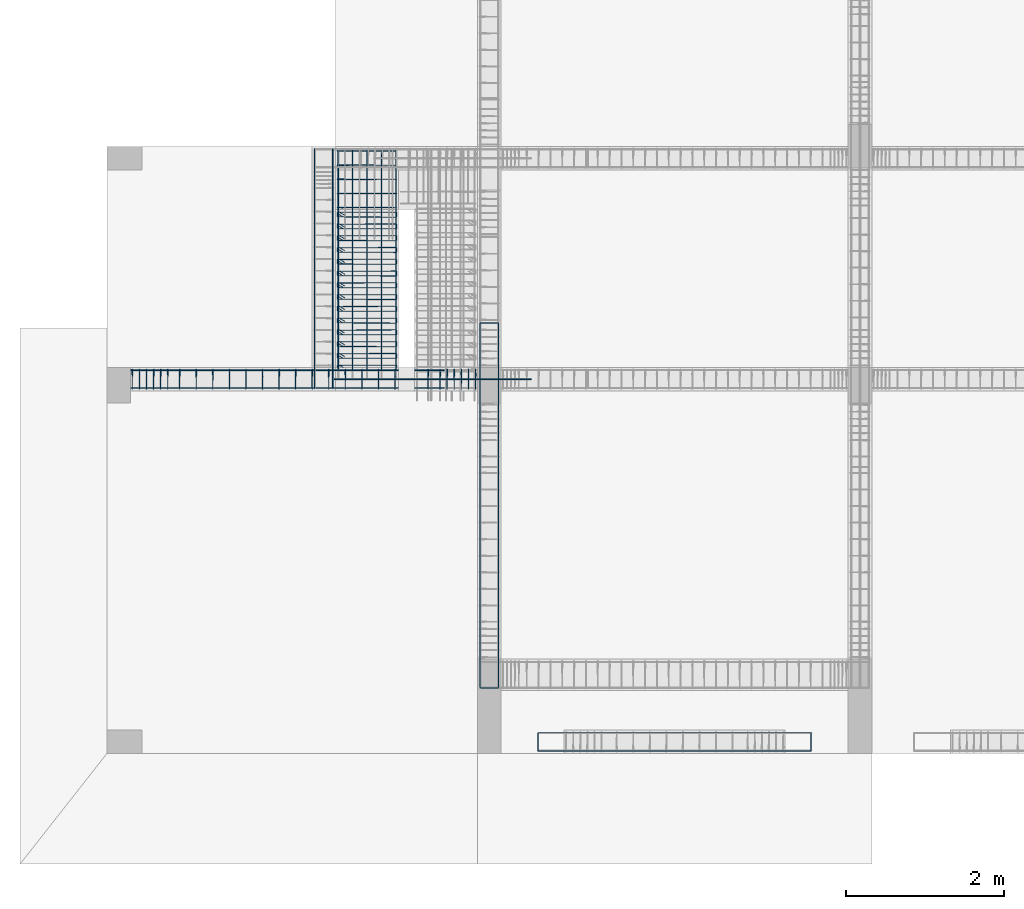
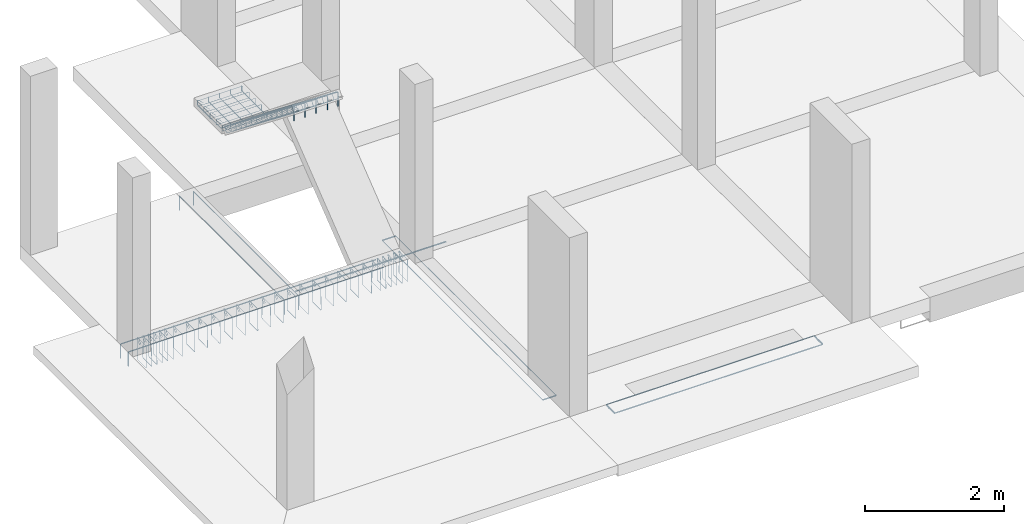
# One storey, part 2 of 5: 8 reinforcing bars.
"""IFC4 building model written with IfcOpenShell, lengths in metres."""

from ifc_helpers import new_model, entity, si_unit, frame, origin_with_axes, place, context, project, spatial, source, transform, mapped, element, save


model = new_model("IFC4")

# Units and contexts
model_context = context("Model", 3, precision=1e-05, world=origin_with_axes())
ifc_project = project(units=[si_unit("LENGTHUNIT", "METRE"), si_unit("AREAUNIT", "SQUARE_METRE"), si_unit("VOLUMEUNIT", "CUBIC_METRE"), si_unit("MASSUNIT", "GRAM", prefix="KILO"), si_unit("TIMEUNIT", "SECOND"), si_unit("PLANEANGLEUNIT", "RADIAN"), si_unit("SOLIDANGLEUNIT", "STERADIAN"), si_unit("THERMODYNAMICTEMPERATUREUNIT", "DEGREE_CELSIUS")], contexts=[model_context])

# Site, building, storey
placement_1 = place(None, origin_with_axes())
site = spatial("IfcSite", under=ifc_project, at=placement_1, Name="Italia", CompositionType="ELEMENT")
building = spatial("IfcBuilding", under=site, at=placement_1, Name="Bifamiliare", CompositionType="ELEMENT")
storey_placement = place(None, frame((0.0, 0.0, 2.799999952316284), z_axis=(0.0, 0.0, 1.0), x_axis=(1.0, 0.0, 0.0)))
storey = spatial("IfcBuildingStorey", under=building, at=storey_placement, Name="Storey 1", CompositionType="ELEMENT", Elevation=2.799999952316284)

# Reinforcing bars
shared_shape_1 = source(origin_with_axes(), model_context, "Body", "AdvancedSweptSolid", [
    entity("IfcSweptDiskSolid", entity("IfcIndexedPolyCurve", entity("IfcCartesianPointList3D", [[6.56833, 1.436, 2.586], [6.56833, 1.656, 2.586], [6.56909, 1.65983, 2.586], [6.57126, 1.66307, 2.586], [6.57451, 1.66524, 2.586], [6.57833, 1.666, 2.586], [10.0217, 1.666, 2.586], [10.0255, 1.66524, 2.586], [10.0287, 1.66307, 2.586], [10.0309, 1.65983, 2.586], [10.0317, 1.656, 2.586], [10.0317, 1.436, 2.586]]), [entity("IfcLineIndex", [1, 2]), entity("IfcLineIndex", [2, 3]), entity("IfcLineIndex", [3, 4]), entity("IfcLineIndex", [4, 5]), entity("IfcLineIndex", [5, 6]), entity("IfcLineIndex", [6, 7]), entity("IfcLineIndex", [7, 8]), entity("IfcLineIndex", [8, 9]), entity("IfcLineIndex", [9, 10]), entity("IfcLineIndex", [10, 11]), entity("IfcLineIndex", [11, 12])], False), 0.006),
])
placement_2 = place(placement_1, origin_with_axes())
reinforcing_bar_1_placement = place(placement_2, origin_with_axes())
element("IfcReinforcingBar", 1, at=reinforcing_bar_1_placement, inside=storey, BarLength=3.91455, CrossSectionArea=0.0001131, NominalDiameter=0.012, context=model_context, shape_type="MappedRepresentation", body=[
    mapped(shared_shape_1, transform((0.0, 3.1, 5.16), x_axis=(1.0, 0.0, 0.0), y_axis=(0.0, -1.0, 0.0), z_axis=(0.0, 0.0, -1.0), scale=1.0)),
    mapped(shared_shape_1, transform((0.0, 0.0, 0.0), x_axis=(1.0, 0.0, 0.0), y_axis=(0.0, 1.0, 0.0), z_axis=(0.0, 0.0, 1.0), scale=1.0)),
])
shared_shape_2 = source(origin_with_axes(), model_context, "Body", "AdvancedSweptSolid", [
    entity("IfcSweptDiskSolid", entity("IfcIndexedPolyCurve", entity("IfcCartesianPointList3D", [[1.42, 6.20529, 2.68429], [1.42059, 6.27307, 2.75207], [1.42064, 6.276, 2.75914], [1.42068, 6.276, 2.766], [1.4207, 6.27524, 2.76983], [1.42073, 6.27307, 2.77307], [1.42075, 6.26983, 2.77524], [1.42078, 6.266, 2.776], [1.4222, 6.034, 2.776], [1.42223, 6.03017, 2.77524], [1.42225, 6.02693, 2.77307], [1.42228, 6.02476, 2.76983], [1.4223, 6.024, 2.766], [1.42459, 6.024, 2.394], [1.42461, 6.02476, 2.39017], [1.42464, 6.02693, 2.38693], [1.42466, 6.03017, 2.38476], [1.42469, 6.034, 2.384], [1.42611, 6.266, 2.384], [1.42614, 6.26983, 2.38476], [1.42616, 6.27307, 2.38693], [1.42619, 6.27524, 2.39017], [1.42621, 6.276, 2.394], [1.4285, 6.276, 2.766], [1.42852, 6.27524, 2.76983], [1.42855, 6.27307, 2.77307], [1.42857, 6.26983, 2.77524], [1.4286, 6.266, 2.776], [1.42864, 6.25914, 2.776], [1.42868, 6.25207, 2.77307], [1.42927, 6.18429, 2.70529]]), [entity("IfcLineIndex", [1, 2]), entity("IfcLineIndex", [2, 3]), entity("IfcLineIndex", [3, 4]), entity("IfcLineIndex", [4, 5]), entity("IfcLineIndex", [5, 6]), entity("IfcLineIndex", [6, 7]), entity("IfcLineIndex", [7, 8]), entity("IfcLineIndex", [8, 9]), entity("IfcLineIndex", [9, 10]), entity("IfcLineIndex", [10, 11]), entity("IfcLineIndex", [11, 12]), entity("IfcLineIndex", [12, 13]), entity("IfcLineIndex", [13, 14]), entity("IfcLineIndex", [14, 15]), entity("IfcLineIndex", [15, 16]), entity("IfcLineIndex", [16, 17]), entity("IfcLineIndex", [17, 18]), entity("IfcLineIndex", [18, 19]), entity("IfcLineIndex", [19, 20]), entity("IfcLineIndex", [20, 21]), entity("IfcLineIndex", [21, 22]), entity("IfcLineIndex", [22, 23]), entity("IfcLineIndex", [23, 24]), entity("IfcLineIndex", [24, 25]), entity("IfcLineIndex", [25, 26]), entity("IfcLineIndex", [26, 27]), entity("IfcLineIndex", [27, 28]), entity("IfcLineIndex", [28, 29]), entity("IfcLineIndex", [29, 30]), entity("IfcLineIndex", [30, 31])], False), 0.004),
])
reinforcing_bar_2_placement = place(placement_2, origin_with_axes())
element("IfcReinforcingBar", 2, at=reinforcing_bar_2_placement, inside=storey, BarLength=1.50681, CrossSectionArea=5.0265e-05, NominalDiameter=0.008, context=model_context, shape_type="MappedRepresentation", body=[
    mapped(shared_shape_2, transform((0.811233, -8.91685e-05, 8.2016e-05), x_axis=(1.0, 6.37638e-05, -6.00507e-05), y_axis=(-6.35566e-05, 1.0, 0.0), z_axis=(6.00507e-05, 0.0, 1.0), scale=1.0)),
    mapped(shared_shape_2, transform((1.23123, -8.91685e-05, 8.2016e-05), x_axis=(1.0, 6.37638e-05, -6.00507e-05), y_axis=(-6.35566e-05, 1.0, 0.0), z_axis=(6.00507e-05, 0.0, 1.0), scale=1.0)),
    mapped(shared_shape_2, transform((1.02123, -8.91685e-05, 8.2016e-05), x_axis=(1.0, 6.37638e-05, -6.00507e-05), y_axis=(-6.35566e-05, 1.0, 0.0), z_axis=(6.00507e-05, 0.0, 1.0), scale=1.0)),
    mapped(shared_shape_2, transform((1.44123, -8.91685e-05, 8.2016e-05), x_axis=(1.0, 6.37638e-05, -6.00507e-05), y_axis=(-6.35566e-05, 1.0, 0.0), z_axis=(6.00507e-05, 0.0, 1.0), scale=1.0)),
    mapped(shared_shape_2, transform((1.86123, -8.91685e-05, 8.2016e-05), x_axis=(1.0, 6.37638e-05, -6.00507e-05), y_axis=(-6.35566e-05, 1.0, 0.0), z_axis=(6.00507e-05, 0.0, 1.0), scale=1.0)),
    mapped(shared_shape_2, transform((1.65123, -8.91685e-05, 8.2016e-05), x_axis=(1.0, 6.37638e-05, -6.00507e-05), y_axis=(-6.35566e-05, 1.0, 0.0), z_axis=(6.00507e-05, 0.0, 1.0), scale=1.0)),
    mapped(shared_shape_2, transform((2.07123, -8.91685e-05, 8.2016e-05), x_axis=(1.0, 6.37638e-05, -6.00507e-05), y_axis=(-6.35566e-05, 1.0, 0.0), z_axis=(6.00507e-05, 0.0, 1.0), scale=1.0)),
    mapped(shared_shape_2, transform((0.0902334, -8.91685e-05, 8.2016e-05), x_axis=(1.0, 6.37638e-05, -6.00507e-05), y_axis=(-6.35566e-05, 1.0, 0.0), z_axis=(6.00507e-05, 0.0, 1.0), scale=1.0)),
    mapped(shared_shape_2, transform((0.0, 0.0, 0.0), x_axis=(1.0, 0.0, 0.0), y_axis=(0.0, 1.0, 0.0), z_axis=(0.0, 0.0, 1.0), scale=1.0)),
    mapped(shared_shape_2, transform((0.18, 0.0, 0.0), x_axis=(1.0, 0.0, 0.0), y_axis=(0.0, 1.0, 0.0), z_axis=(0.0, 0.0, 1.0), scale=1.0)),
    mapped(shared_shape_2, transform((0.360233, -8.91685e-05, 8.2016e-05), x_axis=(1.0, 6.37638e-05, -6.00507e-05), y_axis=(-6.35566e-05, 1.0, 0.0), z_axis=(6.00507e-05, 0.0, 1.0), scale=1.0)),
    mapped(shared_shape_2, transform((0.27, 0.0, 0.0), x_axis=(1.0, 0.0, 0.0), y_axis=(0.0, 1.0, 0.0), z_axis=(0.0, 0.0, 1.0), scale=1.0)),
    mapped(shared_shape_2, transform((0.450234, -8.91685e-05, 8.2016e-05), x_axis=(1.0, 6.37638e-05, -6.00507e-05), y_axis=(-6.35566e-05, 1.0, 0.0), z_axis=(6.00507e-05, 0.0, 1.0), scale=1.0)),
    mapped(shared_shape_2, transform((3.75117, -7.20024e-05, 7.53403e-05), x_axis=(1.0, 5.17519e-05, -5.50857e-05), y_axis=(-5.15507e-05, 1.0, 0.0), z_axis=(5.50857e-05, 0.0, 1.0), scale=1.0)),
    mapped(shared_shape_2, transform((0.601233, -8.91685e-05, 8.2016e-05), x_axis=(1.0, 6.37638e-05, -6.00507e-05), y_axis=(-6.35566e-05, 1.0, 0.0), z_axis=(6.00507e-05, 0.0, 1.0), scale=1.0)),
    mapped(shared_shape_2, transform((3.90217, -7.20024e-05, 7.53403e-05), x_axis=(1.0, 5.17519e-05, -5.50857e-05), y_axis=(-5.15507e-05, 1.0, 0.0), z_axis=(5.50857e-05, 0.0, 1.0), scale=1.0)),
    mapped(shared_shape_2, transform((4.08217, -7.20024e-05, 7.53403e-05), x_axis=(1.0, 5.17519e-05, -5.50857e-05), y_axis=(-5.15507e-05, 1.0, 0.0), z_axis=(5.50857e-05, 0.0, 1.0), scale=1.0)),
    mapped(shared_shape_2, transform((3.99217, -7.20024e-05, 7.53403e-05), x_axis=(1.0, 5.17519e-05, -5.50857e-05), y_axis=(-5.15507e-05, 1.0, 0.0), z_axis=(5.50857e-05, 0.0, 1.0), scale=1.0)),
    mapped(shared_shape_2, transform((4.17217, -7.20024e-05, 7.53403e-05), x_axis=(1.0, 5.17519e-05, -5.50857e-05), y_axis=(-5.15507e-05, 1.0, 0.0), z_axis=(5.50857e-05, 0.0, 1.0), scale=1.0)),
    mapped(shared_shape_2, transform((4.35217, -7.20024e-05, 7.53403e-05), x_axis=(1.0, 5.17519e-05, -5.50857e-05), y_axis=(-5.15507e-05, 1.0, 0.0), z_axis=(5.50857e-05, 0.0, 1.0), scale=1.0)),
    mapped(shared_shape_2, transform((4.26217, -7.20024e-05, 7.53403e-05), x_axis=(1.0, 5.17519e-05, -5.50857e-05), y_axis=(-5.15507e-05, 1.0, 0.0), z_axis=(5.50857e-05, 0.0, 1.0), scale=1.0)),
    mapped(shared_shape_2, transform((2.28123, -8.91685e-05, 8.2016e-05), x_axis=(1.0, 6.37638e-05, -6.00507e-05), y_axis=(-6.35566e-05, 1.0, 0.0), z_axis=(6.00507e-05, 0.0, 1.0), scale=1.0)),
    mapped(shared_shape_2, transform((2.70117, -7.20024e-05, 7.53403e-05), x_axis=(1.0, 5.17519e-05, -5.50857e-05), y_axis=(-5.15507e-05, 1.0, 0.0), z_axis=(5.50857e-05, 0.0, 1.0), scale=1.0)),
    mapped(shared_shape_2, transform((2.49123, -8.91685e-05, 8.2016e-05), x_axis=(1.0, 6.37638e-05, -6.00507e-05), y_axis=(-6.35566e-05, 1.0, 0.0), z_axis=(6.00507e-05, 0.0, 1.0), scale=1.0)),
    mapped(shared_shape_2, transform((2.91117, -7.20024e-05, 7.53403e-05), x_axis=(1.0, 5.17519e-05, -5.50857e-05), y_axis=(-5.15507e-05, 1.0, 0.0), z_axis=(5.50857e-05, 0.0, 1.0), scale=1.0)),
    mapped(shared_shape_2, transform((3.33117, -7.20024e-05, 7.53403e-05), x_axis=(1.0, 5.17519e-05, -5.50857e-05), y_axis=(-5.15507e-05, 1.0, 0.0), z_axis=(5.50857e-05, 0.0, 1.0), scale=1.0)),
    mapped(shared_shape_2, transform((3.12117, -7.20024e-05, 7.53403e-05), x_axis=(1.0, 5.17519e-05, -5.50857e-05), y_axis=(-5.15507e-05, 1.0, 0.0), z_axis=(5.50857e-05, 0.0, 1.0), scale=1.0)),
    mapped(shared_shape_2, transform((3.54117, -7.20024e-05, 7.53403e-05), x_axis=(1.0, 5.17519e-05, -5.50857e-05), y_axis=(-5.15507e-05, 1.0, 0.0), z_axis=(5.50857e-05, 0.0, 1.0), scale=1.0)),
])
shared_shape_3 = source(origin_with_axes(), model_context, "Body", "AdvancedSweptSolid", [
    entity("IfcSweptDiskSolid", entity("IfcIndexedPolyCurve", entity("IfcCartesianPointList3D", [[3.98509, 6.15, 2.765], [4.44518, 6.15, 2.765], [6.025, 6.15, 2.765], [6.48509, 6.15, 2.765]]), [entity("IfcLineIndex", [1, 2]), entity("IfcLineIndex", [2, 3]), entity("IfcLineIndex", [3, 4])], False), 0.007),
])
reinforcing_bar_3_placement = place(placement_2, origin_with_axes())
element("IfcReinforcingBar", 3, at=reinforcing_bar_3_placement, inside=storey, BarLength=2.5, CrossSectionArea=0.00015394, NominalDiameter=0.014, context=model_context, shape_type="MappedRepresentation", body=[
    mapped(shared_shape_3, transform((0.0, 0.0, 0.0), x_axis=(1.0, 0.0, 0.0), y_axis=(0.0, 1.0, 0.0), z_axis=(0.0, 0.0, 1.0), scale=1.0)),
])
shared_shape_4 = source(origin_with_axes(), model_context, "Body", "AdvancedSweptSolid", [
    entity("IfcSweptDiskSolid", entity("IfcIndexedPolyCurve", entity("IfcCartesianPointList3D", [[1.135, 6.037, 2.515], [1.135, 6.037, 2.755], [1.13576, 6.037, 2.75883], [1.13793, 6.037, 2.76207], [1.14117, 6.037, 2.76424], [1.145, 6.037, 2.765], [4.79346, 6.037, 2.765], [5.385, 6.037, 2.765]]), [entity("IfcLineIndex", [1, 2]), entity("IfcLineIndex", [2, 3]), entity("IfcLineIndex", [3, 4]), entity("IfcLineIndex", [4, 5]), entity("IfcLineIndex", [5, 6]), entity("IfcLineIndex", [6, 7]), entity("IfcLineIndex", [7, 8])], False), 0.009),
])
reinforcing_bar_4_placement = place(placement_2, origin_with_axes())
element("IfcReinforcingBar", 4, at=reinforcing_bar_4_placement, inside=storey, BarLength=4.49561, CrossSectionArea=0.00025447, NominalDiameter=0.018, context=model_context, shape_type="MappedRepresentation", body=[
    mapped(shared_shape_4, transform((0.0, 0.226, 0.0), x_axis=(1.0, 0.0, 0.0), y_axis=(0.0, 1.0, 0.0), z_axis=(0.0, 0.0, 1.0), scale=1.0)),
    mapped(shared_shape_4, transform((0.0, 0.0, 0.0), x_axis=(1.0, 0.0, 0.0), y_axis=(0.0, 1.0, 0.0), z_axis=(0.0, 0.0, 1.0), scale=1.0)),
])
shared_shape_5 = source(origin_with_axes(), model_context, "Body", "AdvancedSweptSolid", [
    entity("IfcSweptDiskSolid", entity("IfcIndexedPolyCurve", entity("IfcCartesianPointList3D", [[3.965, 6.034, 2.515], [3.965, 6.034, 2.755], [3.965, 6.03476, 2.75883], [3.965, 6.03693, 2.76207], [3.965, 6.04017, 2.76424], [3.965, 6.044, 2.765], [3.965, 9.056, 2.765], [3.965, 9.05983, 2.76424], [3.965, 9.06307, 2.76207], [3.965, 9.06524, 2.75883], [3.965, 9.066, 2.755], [3.965, 9.066, 2.515]]), [entity("IfcLineIndex", [1, 2]), entity("IfcLineIndex", [2, 3]), entity("IfcLineIndex", [3, 4]), entity("IfcLineIndex", [4, 5]), entity("IfcLineIndex", [5, 6]), entity("IfcLineIndex", [6, 7]), entity("IfcLineIndex", [7, 8]), entity("IfcLineIndex", [8, 9]), entity("IfcLineIndex", [9, 10]), entity("IfcLineIndex", [10, 11]), entity("IfcLineIndex", [11, 12])], False), 0.007),
])
reinforcing_bar_5_placement = place(placement_2, origin_with_axes())
element("IfcReinforcingBar", 5, at=reinforcing_bar_5_placement, inside=storey, BarLength=3.52321, CrossSectionArea=0.00015394, NominalDiameter=0.014, context=model_context, shape_type="MappedRepresentation", body=[
    mapped(shared_shape_5, transform((-0.23, 0.0, 0.0), x_axis=(1.0, 0.0, 0.0), y_axis=(0.0, 1.0, 0.0), z_axis=(0.0, 0.0, 1.0), scale=1.0)),
    mapped(shared_shape_5, transform((0.0, 0.0, 0.0), x_axis=(1.0, 0.0, 0.0), y_axis=(0.0, 1.0, 0.0), z_axis=(0.0, 0.0, 1.0), scale=1.0)),
])
shared_shape_6 = source(origin_with_axes(), model_context, "Body", "AdvancedSweptSolid", [
    entity("IfcSweptDiskSolid", entity("IfcIndexedPolyCurve", entity("IfcCartesianPointList3D", [[6.064, 2.234, 2.586], [5.844, 2.234, 2.586], [5.84017, 2.23476, 2.586], [5.83693, 2.23693, 2.586], [5.83476, 2.24017, 2.586], [5.834, 2.244, 2.586], [5.834, 6.8525, 2.586], [5.83476, 6.85633, 2.586], [5.83693, 6.85957, 2.586], [5.84017, 6.86174, 2.586], [5.844, 6.8625, 2.586], [6.064, 6.8625, 2.586]]), [entity("IfcLineIndex", [1, 2]), entity("IfcLineIndex", [2, 3]), entity("IfcLineIndex", [3, 4]), entity("IfcLineIndex", [4, 5]), entity("IfcLineIndex", [5, 6]), entity("IfcLineIndex", [6, 7]), entity("IfcLineIndex", [7, 8]), entity("IfcLineIndex", [8, 9]), entity("IfcLineIndex", [9, 10]), entity("IfcLineIndex", [10, 11]), entity("IfcLineIndex", [11, 12])], False), 0.006),
])
reinforcing_bar_6_placement = place(placement_2, origin_with_axes())
element("IfcReinforcingBar", 6, at=reinforcing_bar_6_placement, inside=storey, BarLength=5.07971, CrossSectionArea=0.0001131, NominalDiameter=0.012, context=model_context, shape_type="MappedRepresentation", body=[
    mapped(shared_shape_6, transform((11.9, 0.0, 5.16), x_axis=(-1.0, 0.0, 0.0), y_axis=(0.0, 1.0, 0.0), z_axis=(0.0, 0.0, -1.0), scale=1.0)),
    mapped(shared_shape_6, transform((0.0, 0.0, 0.0), x_axis=(1.0, 0.0, 0.0), y_axis=(0.0, 1.0, 0.0), z_axis=(0.0, 0.0, 1.0), scale=1.0)),
])
shared_shape_7 = source(origin_with_axes(), model_context, "Body", "AdvancedSweptSolid", [
    entity("IfcSweptDiskSolid", entity("IfcIndexedPolyCurve", entity("IfcCartesianPointList3D", [[4.09471, 6.26573, 5.82971], [4.02693, 6.30801, 5.88268], [4.024, 6.31242, 5.88822], [4.024, 6.31668, 5.89358], [4.02476, 6.31907, 5.89658], [4.02693, 6.32109, 5.89912], [4.03017, 6.32244, 5.90081], [4.034, 6.32293, 5.90139], [4.766, 6.3256, 5.89929], [4.76983, 6.32515, 5.89868], [4.77307, 6.32382, 5.89697], [4.77524, 6.32183, 5.8944], [4.776, 6.31947, 5.89139], [4.776, 6.26904, 5.82673], [4.77524, 6.26669, 5.82371], [4.77307, 6.26469, 5.82115], [4.76983, 6.26337, 5.81944], [4.766, 6.26291, 5.81883], [4.034, 6.26559, 5.81672], [4.03017, 6.26607, 5.81731], [4.02693, 6.26743, 5.819], [4.02476, 6.26945, 5.82154], [4.024, 6.27183, 5.82453], [4.024, 6.32286, 5.88872], [4.02476, 6.32524, 5.89171], [4.02693, 6.32727, 5.89425], [4.03017, 6.32862, 5.89594], [4.034, 6.3291, 5.89653], [4.04086, 6.32913, 5.89651], [4.04793, 6.32735, 5.89419], [4.11571, 6.28576, 5.84066]]), [entity("IfcLineIndex", [1, 2]), entity("IfcLineIndex", [2, 3]), entity("IfcLineIndex", [3, 4]), entity("IfcLineIndex", [4, 5]), entity("IfcLineIndex", [5, 6]), entity("IfcLineIndex", [6, 7]), entity("IfcLineIndex", [7, 8]), entity("IfcLineIndex", [8, 9]), entity("IfcLineIndex", [9, 10]), entity("IfcLineIndex", [10, 11]), entity("IfcLineIndex", [11, 12]), entity("IfcLineIndex", [12, 13]), entity("IfcLineIndex", [13, 14]), entity("IfcLineIndex", [14, 15]), entity("IfcLineIndex", [15, 16]), entity("IfcLineIndex", [16, 17]), entity("IfcLineIndex", [17, 18]), entity("IfcLineIndex", [18, 19]), entity("IfcLineIndex", [19, 20]), entity("IfcLineIndex", [20, 21]), entity("IfcLineIndex", [21, 22]), entity("IfcLineIndex", [22, 23]), entity("IfcLineIndex", [23, 24]), entity("IfcLineIndex", [24, 25]), entity("IfcLineIndex", [25, 26]), entity("IfcLineIndex", [26, 27]), entity("IfcLineIndex", [27, 28]), entity("IfcLineIndex", [28, 29]), entity("IfcLineIndex", [29, 30]), entity("IfcLineIndex", [30, 31])], False), 0.004),
])
reinforcing_bar_7_placement = place(placement_2, origin_with_axes())
element("IfcReinforcingBar", 7, at=reinforcing_bar_7_placement, inside=storey, BarLength=1.9268, CrossSectionArea=5.0265e-05, NominalDiameter=0.008, context=model_context, shape_type="MappedRepresentation", body=[
    mapped(shared_shape_7, transform((0.000190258, 1.04349, -0.821454), x_axis=(1.0, 0.000130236, -0.000107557), y_axis=(-0.000130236, 1.0, -0.000164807), z_axis=(0.000107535, 0.000164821, 1.0), scale=1.0)),
    mapped(shared_shape_7, transform((7.62939e-05, 1.19359, -0.93981), x_axis=(1.0, 5.97239e-05, -5.12898e-05), y_axis=(-5.96047e-05, 1.0, -7.46548e-05), z_axis=(5.12853e-05, 7.46579e-05, 1.0), scale=1.0)),
    mapped(shared_shape_7, transform((0.0, 0.0, 0.0), x_axis=(1.0, 0.0, 0.0), y_axis=(0.0, 1.0, 0.0), z_axis=(0.0, 0.0, 1.0), scale=1.0)),
    mapped(shared_shape_7, transform((0.000190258, 0.894208, -0.703893), x_axis=(1.0, 0.000130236, -0.000107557), y_axis=(-0.000130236, 1.0, -0.000164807), z_axis=(0.000107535, 0.000164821, 1.0), scale=1.0)),
    mapped(shared_shape_7, transform((-8.24928e-05, 0.448016, -0.352803), x_axis=(1.0, -1.58548e-05, 0.0), y_axis=(1.57356e-05, 1.0, 1.72555e-05), z_axis=(0.0, -1.72555e-05, 1.0), scale=1.0)),
    mapped(shared_shape_7, transform((7.62939e-05, 0.596456, -0.469567), x_axis=(1.0, 5.97239e-05, -5.12898e-05), y_axis=(-5.96047e-05, 1.0, -7.46548e-05), z_axis=(5.12853e-05, 7.46579e-05, 1.0), scale=1.0)),
    mapped(shared_shape_7, transform((4.52995e-05, 0.745804, -0.587177), x_axis=(1.0, 5.04553e-05, -4.66108e-05), y_axis=(-5.08428e-05, 1.0, -6.96629e-05), z_axis=(4.66073e-05, 6.96653e-05, 1.0), scale=1.0)),
    mapped(shared_shape_7, transform((0.000106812, 0.297834, -0.234409), x_axis=(1.0, 6.80685e-05, -5.50747e-05), y_axis=(-6.83367e-05, 1.0, -7.77692e-05), z_axis=(5.50694e-05, 7.77729e-05, 1.0), scale=1.0)),
    mapped(shared_shape_7, transform((0.000403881, 7.53847, -4.19693), x_axis=(1.0, 0.000287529, 0.0), y_axis=(-0.00022769, 0.785804, 0.618475), z_axis=(0.000175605, -0.618475, 0.785805), scale=1.0)),
    mapped(shared_shape_7, transform((0.000263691, 1.34198, -1.05654), x_axis=(1.0, 0.000142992, -0.000108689), y_axis=(-0.000142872, 1.0, -0.000168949), z_axis=(0.000108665, 0.000168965, 1.0), scale=1.0)),
    mapped(shared_shape_7, transform((8.4877e-05, 0.149003, -0.117318), x_axis=(1.0, 3.15309e-05, -1.96993e-05), y_axis=(-3.18587e-05, 1.0, -2.60025e-05), z_axis=(1.96985e-05, 2.60032e-05, 1.0), scale=1.0)),
    mapped(shared_shape_7, transform((0.000403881, 7.35922, -4.19693), x_axis=(1.0, 0.000287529, 0.0), y_axis=(-0.00022769, 0.785804, 0.618475), z_axis=(0.000175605, -0.618475, 0.785805), scale=1.0)),
    mapped(shared_shape_7, transform((0.000215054, 1.9395, -1.52716), x_axis=(1.0, 0.000114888, -8.69036e-05), y_axis=(-0.000115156, 1.0, -0.000123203), z_axis=(8.68894e-05, 0.000123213, 1.0), scale=1.0)),
    mapped(shared_shape_7, transform((0.000403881, 7.00072, -4.19693), x_axis=(1.0, 0.000287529, 0.0), y_axis=(-0.00022769, 0.785804, 0.618475), z_axis=(0.000175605, -0.618475, 0.785805), scale=1.0)),
    mapped(shared_shape_7, transform((0.000403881, 7.17997, -4.19693), x_axis=(1.0, 0.000287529, 0.0), y_axis=(-0.00022769, 0.785804, 0.618475), z_axis=(0.000175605, -0.618475, 0.785805), scale=1.0)),
    mapped(shared_shape_7, transform((0.000227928, 1.79025, -1.40965), x_axis=(1.0, 0.000110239, -7.9751e-05), y_axis=(-0.000110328, 1.0, -0.000119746), z_axis=(7.97378e-05, 0.000119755, 1.0), scale=1.0)),
    mapped(shared_shape_7, transform((0.000403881, 7.71772, -4.19693), x_axis=(1.0, 0.000287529, 0.0), y_axis=(-0.00022769, 0.785804, 0.618475), z_axis=(0.000175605, -0.618475, 0.785805), scale=1.0)),
    mapped(shared_shape_7, transform((0.000119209, 1.49214, -1.17495), x_axis=(1.0, 6.35684e-05, -4.79817e-05), y_axis=(-6.35386e-05, 1.0, -7.44611e-05), z_axis=(4.7977e-05, 7.44642e-05, 1.0), scale=1.0)),
    mapped(shared_shape_7, transform((0.000206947, 1.64053, -1.29161), x_axis=(1.0, 0.000143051, -0.000118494), y_axis=(-0.000142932, 1.0, -0.00017187), z_axis=(0.000118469, 0.000171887, 1.0), scale=1.0)),
])
shared_shape_8 = source(origin_with_axes(), model_context, "Body", "AdvancedSweptSolid", [
    entity("IfcSweptDiskSolid", entity("IfcIndexedPolyCurve", entity("IfcCartesianPointList3D", [[4.765, 6.27843, 5.67244], [4.765, 6.27843, 5.90183], [4.765, 6.27995, 5.90714], [4.765, 6.28406, 5.91083], [4.765, 6.2895, 5.91178], [4.765, 6.29462, 5.90969], [4.765, 8.28787, 4.34], [4.765, 8.38674, 4.26214], [4.765, 8.38813, 4.26123], [4.765, 8.38965, 4.26055], [4.765, 8.39127, 4.26014], [4.765, 8.39293, 4.26], [4.765, 9.055, 4.26], [4.765, 9.05883, 4.26076], [4.765, 9.06207, 4.26293], [4.765, 9.06424, 4.26617], [4.765, 9.065, 4.27], [4.765, 9.065, 4.34]]), [entity("IfcLineIndex", [1, 2]), entity("IfcLineIndex", [2, 3]), entity("IfcLineIndex", [3, 4]), entity("IfcLineIndex", [4, 5]), entity("IfcLineIndex", [5, 6]), entity("IfcLineIndex", [6, 7]), entity("IfcLineIndex", [7, 8]), entity("IfcLineIndex", [8, 9]), entity("IfcLineIndex", [9, 10]), entity("IfcLineIndex", [10, 11]), entity("IfcLineIndex", [11, 12]), entity("IfcLineIndex", [12, 13]), entity("IfcLineIndex", [13, 14]), entity("IfcLineIndex", [14, 15]), entity("IfcLineIndex", [15, 16]), entity("IfcLineIndex", [16, 17]), entity("IfcLineIndex", [17, 18])], False), 0.007),
])
reinforcing_bar_8_placement = place(placement_2, origin_with_axes())
element("IfcReinforcingBar", 8, at=reinforcing_bar_8_placement, inside=storey, BarLength=3.6688, CrossSectionArea=0.00015394, NominalDiameter=0.014, context=model_context, shape_type="MappedRepresentation", body=[
    mapped(shared_shape_8, transform((0.0, 0.0, 0.0), x_axis=(1.0, 0.0, 0.0), y_axis=(0.0, 1.0, 0.0), z_axis=(0.0, 0.0, 1.0), scale=1.0)),
    mapped(shared_shape_8, transform((-0.73, 0.0, 0.0), x_axis=(1.0, 0.0, 0.0), y_axis=(0.0, 1.0, 0.0), z_axis=(0.0, 0.0, 1.0), scale=1.0)),
    mapped(shared_shape_8, transform((-0.179, 0.0, 0.0), x_axis=(1.0, 0.0, 0.0), y_axis=(0.0, 1.0, 0.0), z_axis=(0.0, 0.0, 1.0), scale=1.0)),
    mapped(shared_shape_8, transform((-0.365, 0.0, 0.0), x_axis=(1.0, 0.0, 0.0), y_axis=(0.0, 1.0, 0.0), z_axis=(0.0, 0.0, 1.0), scale=1.0)),
    mapped(shared_shape_8, transform((-0.551, 0.0, 0.0), x_axis=(1.0, 0.0, 0.0), y_axis=(0.0, 1.0, 0.0), z_axis=(0.0, 0.0, 1.0), scale=1.0)),
])

save(model, "model.ifc")
